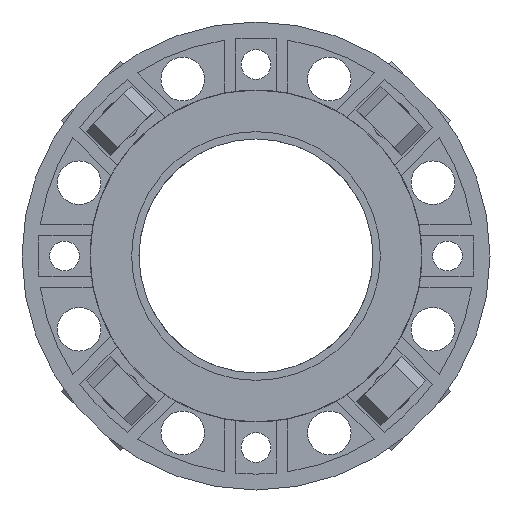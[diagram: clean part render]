
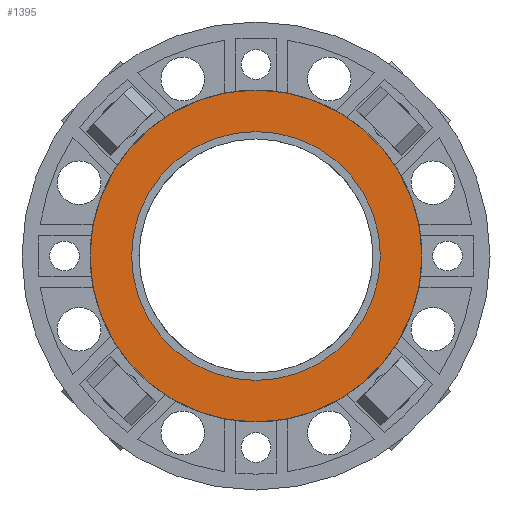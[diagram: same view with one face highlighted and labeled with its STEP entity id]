
A CAD part, front view. The second image highlights one B-rep face of the part: STEP entity #1395.
In plain terms, the highlighted planar face has unit normal (0, -1, 0).
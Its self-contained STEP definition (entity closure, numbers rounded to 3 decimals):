
#1178 = DIRECTION ( 'NONE',  ( 0., 1., 0. ) ) ;
#1387 = CARTESIAN_POINT ( 'NONE',  ( 0., -3., -58.5 ) ) ;
#1395 = ADVANCED_FACE ( 'Defeatured_0_188', ( #14176, #5347 ), #6377, .F. ) ;
#1836 = VERTEX_POINT ( 'NONE', #5109 ) ;
#1861 = EDGE_CURVE ( 'Defeatured_0_188+Defeatured_0_354+Defeatured_0_354+Defeatured_0_354', #11313, #6098, #5812, .T. ) ;
#2200 = EDGE_CURVE ( 'Defeatured_0_189+Defeatured_0_188+Defeatured_0_188+Defeatured_0_188', #6960, #1836, #11954, .T. ) ;
#2331 = DIRECTION ( 'NONE',  ( 0., 1., 0. ) ) ;
#3147 = EDGE_LOOP ( 'NONE', ( #12438, #5511 ) ) ;
#3867 = CARTESIAN_POINT ( 'NONE',  ( 0., -3., 0. ) ) ;
#3876 = EDGE_CURVE ( 'Defeatured_0_188+Defeatured_0_354+Defeatured_0_354+Defeatured_0_354', #6098, #11313, #4195, .T. ) ;
#3906 = DIRECTION ( 'NONE',  ( 0., 1., 0. ) ) ;
#4195 = CIRCLE ( 'NONE', #12422, 58.5 ) ;
#4570 = CARTESIAN_POINT ( 'NONE',  ( 0., -3., 0. ) ) ;
#5109 = CARTESIAN_POINT ( 'NONE',  ( 0., -3., -78. ) ) ;
#5347 = FACE_OUTER_BOUND ( 'NONE', #3147, .T. ) ;
#5436 = CIRCLE ( 'NONE', #8252, 78. ) ;
#5511 = ORIENTED_EDGE ( 'NONE', *, *, #2200, .F. ) ;
#5812 = CIRCLE ( 'NONE', #14047, 58.5 ) ;
#6098 = VERTEX_POINT ( 'NONE', #7460 ) ;
#6353 = EDGE_CURVE ( 'Defeatured_0_189+Defeatured_0_188+Defeatured_0_188+Defeatured_0_188', #1836, #6960, #5436, .T. ) ;
#6377 = PLANE ( 'NONE',  #12402 ) ;
#6960 = VERTEX_POINT ( 'NONE', #9775 ) ;
#6995 = DIRECTION ( 'NONE',  ( 0., 0., 1. ) ) ;
#7006 = AXIS2_PLACEMENT_3D ( 'NONE', #12804, #3906, #7153 ) ;
#7153 = DIRECTION ( 'NONE',  ( 0., 0., 1. ) ) ;
#7340 = DIRECTION ( 'NONE',  ( 0., 0., 1. ) ) ;
#7460 = CARTESIAN_POINT ( 'NONE',  ( 0., -3., 58.5 ) ) ;
#7554 = ORIENTED_EDGE ( 'NONE', *, *, #1861, .T. ) ;
#8127 = ORIENTED_EDGE ( 'NONE', *, *, #3876, .T. ) ;
#8252 = AXIS2_PLACEMENT_3D ( 'NONE', #4570, #1178, #6995 ) ;
#8357 = DIRECTION ( 'NONE',  ( 0., 1., 0. ) ) ;
#8860 = DIRECTION ( 'NONE',  ( 0., 0., 1. ) ) ;
#9775 = CARTESIAN_POINT ( 'NONE',  ( 0., -3., 78. ) ) ;
#10551 = EDGE_LOOP ( 'NONE', ( #7554, #8127 ) ) ;
#11313 = VERTEX_POINT ( 'NONE', #1387 ) ;
#11954 = CIRCLE ( 'NONE', #7006, 78. ) ;
#12212 = DIRECTION ( 'NONE',  ( 0., 0., 1. ) ) ;
#12402 = AXIS2_PLACEMENT_3D ( 'NONE', #3867, #8357, #7340 ) ;
#12422 = AXIS2_PLACEMENT_3D ( 'NONE', #12428, #2331, #12212 ) ;
#12428 = CARTESIAN_POINT ( 'NONE',  ( 0., -3., 0. ) ) ;
#12438 = ORIENTED_EDGE ( 'NONE', *, *, #6353, .F. ) ;
#12804 = CARTESIAN_POINT ( 'NONE',  ( 0., -3., 0. ) ) ;
#12902 = DIRECTION ( 'NONE',  ( 0., 1., 0. ) ) ;
#14047 = AXIS2_PLACEMENT_3D ( 'NONE', #14229, #12902, #8860 ) ;
#14176 = FACE_BOUND ( 'NONE', #10551, .T. ) ;
#14229 = CARTESIAN_POINT ( 'NONE',  ( 0., -3., 0. ) ) ;
